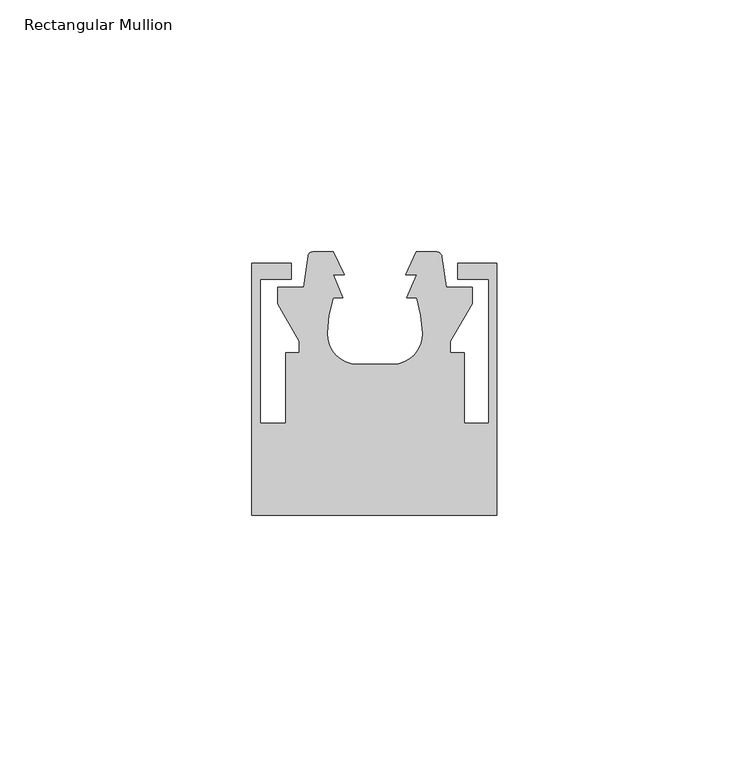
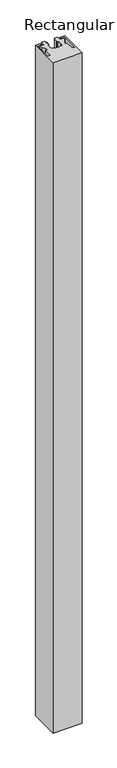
"""IFC4 building model written with IfcOpenShell, lengths in millimetres: member geometry, Rectangular Mullion : Danpal_Airpt."""

from ifc_helpers import new_model, si_unit, point, frame, frame_2d, origin, place, context, project, spatial, polyline, circle_curve, trimmed, segment, composite_curve, outline, extrude, source, transform, mapped, element, save


def rectangular_mullion_df59eadc(model_context):
    return source(origin(), model_context, "Body", "SweptSolid", [
        extrude(outline(composite_curve([segment(polyline([(-16.6, -16.4), (-16.6, -19.6), (-22.8, -19.6), (-22.8, -48.2), (-17.7185077, -48.2), (-17.7185077, -34.2), (-14.9766663, -34.2), (-14.9766663, -31.9202845), (-19.2732051, -24.478461), (-19.3, -21.2), (-14.115585, -21.2)]), True, "CONTINUOUS"), segment(trimmed(circle_curve(frame_2d((137.1078499, -38.5534788)), 152.215868), [point((-14.115585, -21.2))], [point((-13.2693482, -14.9660083))], False, "CARTESIAN"), True, "CONTINUOUS"), segment(trimmed(circle_curve(frame_2d((-12.3738214, -15.1064765)), 0.9064765), [point((-13.2693482, -14.9660083))], [point((-12.3738214, -14.2))], False, "CARTESIAN"), True, "CONTINUOUS"), segment(polyline([(-12.3738214, -14.2), (-8.2308667, -14.2), (-6.0782659, -18.7006239), (-8.2858815, -18.7006239), (-6.3614697, -23.2699289), (-8.2778534, -23.2699289)]), True, "CONTINUOUS"), segment(trimmed(circle_curve(frame_2d((16.4332098, -31.142799)), 25.9348941), [point((-8.2778534, -23.2699289))], [point((-9.488241, -30.3078647))], True, "CARTESIAN"), True, "CONTINUOUS"), segment(trimmed(circle_curve(frame_2d((-3.5093751, -30.500445)), 5.9819667), [point((-9.488241, -30.3078647))], [point((-3.5093751, -36.4824117))], True, "CARTESIAN"), True, "CONTINUOUS"), segment(polyline([(-3.5093751, -36.4824117), (3.5093751, -36.4824117)]), True, "CONTINUOUS"), segment(trimmed(circle_curve(frame_2d((3.5093751, -30.500445)), 5.9819667), [point((3.5093751, -36.4824117))], [point((9.488241, -30.3078647))], True, "CARTESIAN"), True, "CONTINUOUS"), segment(trimmed(circle_curve(frame_2d((-16.4332098, -31.142799)), 25.9348941), [point((9.488241, -30.3078647))], [point((8.2778534, -23.2699289))], True, "CARTESIAN"), True, "CONTINUOUS"), segment(polyline([(8.2778534, -23.2699289), (6.3614697, -23.2699289), (8.2858815, -18.7006239), (6.0782659, -18.7006239), (8.2308667, -14.2), (12.2262756, -14.2)]), True, "CONTINUOUS"), segment(trimmed(circle_curve(frame_2d((12.2262756, -15.2788845)), 1.0788845), [point((12.2262756, -14.2))], [point((13.2922905, -15.1127399))], False, "CARTESIAN"), True, "CONTINUOUS"), segment(trimmed(circle_curve(frame_2d((-137.1078499, -38.5534788)), 152.215868), [point((13.2922905, -15.1127399))], [point((14.115585, -21.2))], False, "CARTESIAN"), True, "CONTINUOUS"), segment(polyline([(14.115585, -21.2), (19.3, -21.2), (19.2732051, -24.478461), (14.9766663, -31.9202845), (14.9766663, -34.2), (17.7185077, -34.2), (17.7185077, -48.2), (22.6, -48.2), (22.6, -19.6), (16.4, -19.6), (16.4, -16.4), (24.2, -16.4), (24.2, -66.4), (-24.4, -66.4), (-24.4, -16.4), (-16.6, -16.4)]), True, "CONTINUOUS")], self_intersect=False)), frame((0.0, 0.0, -1173.5289119), z_axis=(0.0, 0.0, 1.0), x_axis=(1.0, 0.0, 0.0)), (0.0, 0.0, 1.0), 1173.5289119),
    ])


if __name__ == "__main__":
    model = new_model("IFC4")
    model_context = context("Model", 3, world=origin())
    ifc_project = project(units=[si_unit("LENGTHUNIT", "METRE", prefix="MILLI")], contexts=[model_context])
    site = spatial("IfcSite", under=ifc_project)
    building = spatial("IfcBuilding", under=site)
    placement = place(None, origin())
    rectangular_mullion_shape = rectangular_mullion_df59eadc(model_context)
    element("IfcMember", 1, ObjectType="Rectangular Mullion : Danpal_Airpt", at=placement, inside=building, context=model_context, shape_type="MappedRepresentation", body=[
        mapped(rectangular_mullion_shape, transform((0.0, 0.0, 0.0), x_axis=(1.0, 0.0, 0.0), y_axis=(0.0, 1.0, 0.0), z_axis=(0.0, 0.0, 1.0))),
    ])
    save(model, "model.ifc")
